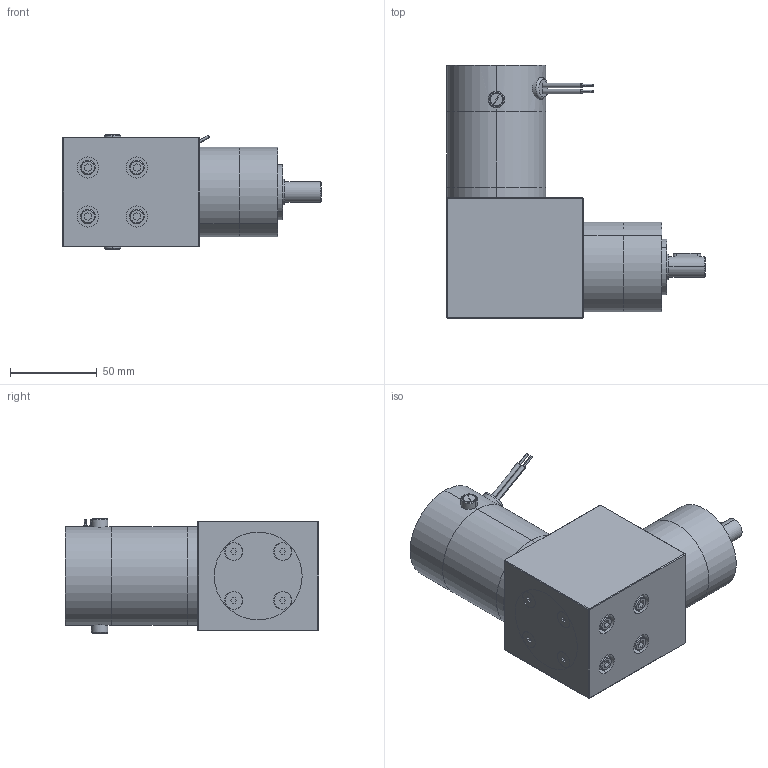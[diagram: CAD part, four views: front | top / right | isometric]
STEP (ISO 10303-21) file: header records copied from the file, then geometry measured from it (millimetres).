
FILE_DESCRIPTION (( 'STEP AP203' ), '1' );
FILE_NAME ('d22301gra1.step', '2018-12-07T19:22:20', ( '' ), ( '' ), 'SwSTEP 2.0', 'SolidWorks 2017', '' );
FILE_SCHEMA (( 'CONFIG_CONTROL_DESIGN' ));
Length unit declared in the file: inch
Products named in the file (1): d22301gra1
Bounding box: 149.17 x 146.35 x 66.04 mm (x, y, z)
Volume: 637972.5 mm3; surface area: 107857 mm2
Topology: 24 solids, 24 shells, 558 faces, 1209 edges, 746 vertices
Faces by surface type: plane 244, cylinder 216, cone 87, torus 7, sphere 4
Entity records: 15442 total; most frequent: CARTESIAN_POINT 2824, DIRECTION 2817, ORIENTED_EDGE 2370, EDGE_CURVE 1185, AXIS2_PLACEMENT_3D 1089, VERTEX_POINT 746, EDGE_LOOP 671, LINE 639
